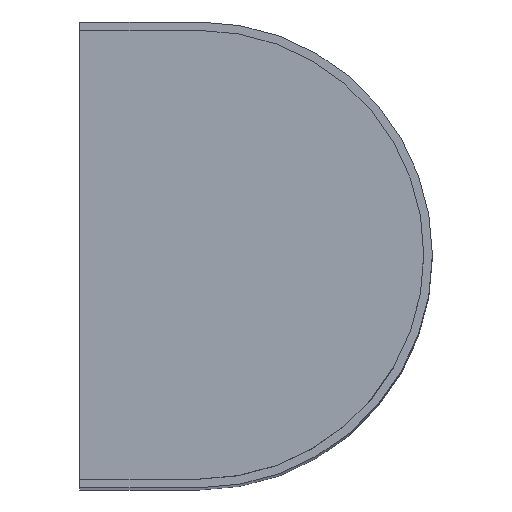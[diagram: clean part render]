
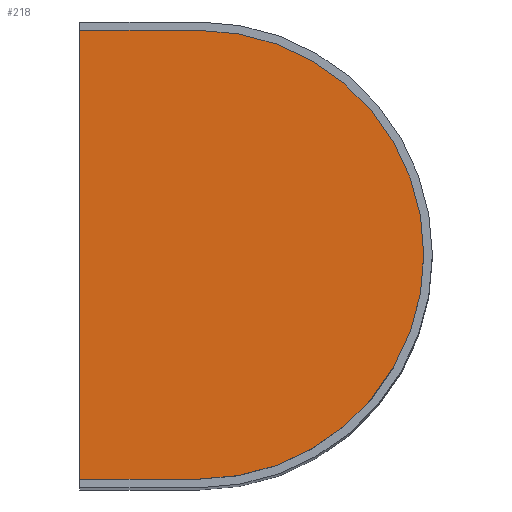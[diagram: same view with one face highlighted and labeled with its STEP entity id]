
A CAD part, top view. The second image highlights one B-rep face of the part: STEP entity #218.
In plain terms, the highlighted planar face has unit normal (0, 0, 1).
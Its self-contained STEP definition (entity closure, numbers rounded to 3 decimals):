
#22 = CARTESIAN_POINT ( 'NONE',  ( -68., 0., 211.5 ) ) ;
#25 = DIRECTION ( 'NONE',  ( 0., 0., 1. ) ) ;
#26 = CARTESIAN_POINT ( 'NONE',  ( -103., -65.5, 211.5 ) ) ;
#64 = DIRECTION ( 'NONE',  ( 0., -1., 0. ) ) ;
#75 = CARTESIAN_POINT ( 'NONE',  ( -68., 65.5, 211.5 ) ) ;
#76 = CARTESIAN_POINT ( 'NONE',  ( -103., 65.5, 211.5 ) ) ;
#94 = PLANE ( 'NONE',  #244 ) ;
#109 = DIRECTION ( 'NONE',  ( 0., 0., 1. ) ) ;
#123 = CARTESIAN_POINT ( 'NONE',  ( -68., 65.5, 211.5 ) ) ;
#124 = DIRECTION ( 'NONE',  ( -1., 0., 0. ) ) ;
#126 = CARTESIAN_POINT ( 'NONE',  ( -103., -65.5, 211.5 ) ) ;
#133 = DIRECTION ( 'NONE',  ( 1., 0., 0. ) ) ;
#136 = CARTESIAN_POINT ( 'NONE',  ( -68., 0., 211.5 ) ) ;
#147 = DIRECTION ( 'NONE',  ( 1., 0., 0. ) ) ;
#153 = CARTESIAN_POINT ( 'NONE',  ( -103., 65.5, 211.5 ) ) ;
#157 = DIRECTION ( 'NONE',  ( 1., 0., 0. ) ) ;
#166 = AXIS2_PLACEMENT_3D ( 'NONE', #136, #109, #157 ) ;
#182 = EDGE_CURVE ( 'NONE', #286, #280, #387, .T. ) ;
#189 = EDGE_CURVE ( 'NONE', #280, #279, #399, .T. ) ;
#195 = EDGE_CURVE ( 'NONE', #279, #299, #401, .T. ) ;
#197 = EDGE_CURVE ( 'NONE', #299, #286, #417, .T. ) ;
#206 = ORIENTED_EDGE ( 'NONE', *, *, #189, .T. ) ;
#218 = ADVANCED_FACE ( 'NONE', ( #444 ), #94, .T. ) ;
#244 = AXIS2_PLACEMENT_3D ( 'NONE', #22, #25, #133 ) ;
#279 = VERTEX_POINT ( 'NONE', #126 ) ;
#280 = VERTEX_POINT ( 'NONE', #153 ) ;
#286 = VERTEX_POINT ( 'NONE', #75 ) ;
#299 = VERTEX_POINT ( 'NONE', #468 ) ;
#303 = EDGE_LOOP ( 'NONE', ( #323, #206, #357, #334 ) ) ;
#323 = ORIENTED_EDGE ( 'NONE', *, *, #182, .T. ) ;
#334 = ORIENTED_EDGE ( 'NONE', *, *, #197, .T. ) ;
#357 = ORIENTED_EDGE ( 'NONE', *, *, #195, .T. ) ;
#387 = LINE ( 'NONE', #123, #390 ) ;
#390 = VECTOR ( 'NONE', #124, 1000. ) ;
#399 = LINE ( 'NONE', #76, #404 ) ;
#401 = LINE ( 'NONE', #26, #416 ) ;
#404 = VECTOR ( 'NONE', #64, 1000. ) ;
#416 = VECTOR ( 'NONE', #147, 1000. ) ;
#417 = CIRCLE ( 'NONE', #166, 65.5 ) ;
#444 = FACE_OUTER_BOUND ( 'NONE', #303, .T. ) ;
#468 = CARTESIAN_POINT ( 'NONE',  ( -68., -65.5, 211.5 ) ) ;
